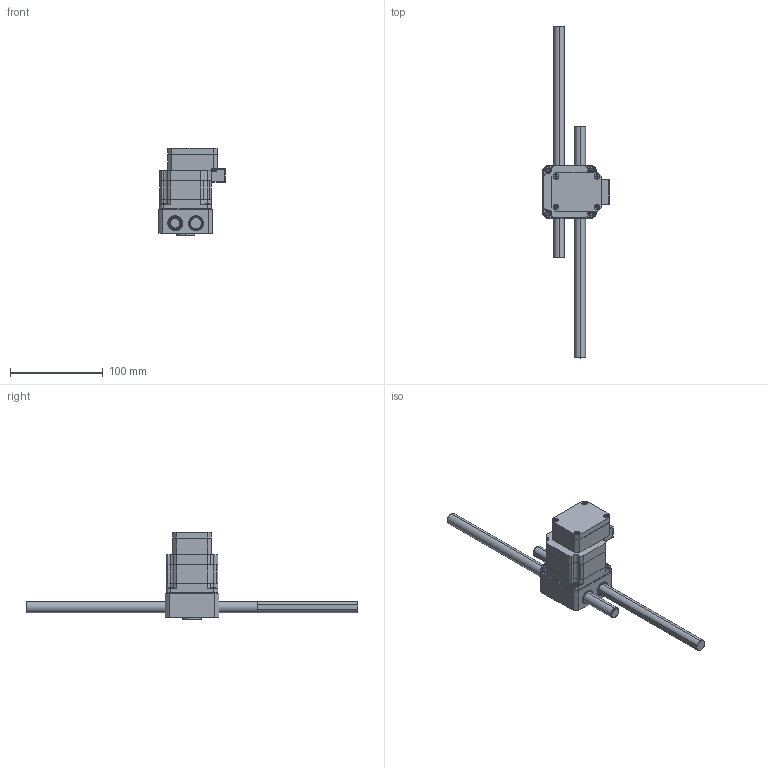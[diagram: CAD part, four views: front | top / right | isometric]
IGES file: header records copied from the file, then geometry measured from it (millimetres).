
Start section: SolidWorks IGES file using analytic representation for surfaces
Global section: file name: C:\Users\render\Documents\CAD Files\Integrated-Actuators\RRA-Series\RRAD-23\January 26 2012 Website Uploads\RRAD23-12-250-23XX0.IGS; native system: SolidWorks 2011; preprocessor: SolidWorks 2011; author: render; date: 120127.115230; units: millimetre
Bounding box: 71.81 x 358 x 94.3 mm (x, y, z)
Surface area: 72795.1 mm2 (no closed solid volume)
Topology: 0 solids, 0 shells, 1442 faces, 12547 edges, 12513 vertices
Faces by surface type: bspline 889, revolution 553
